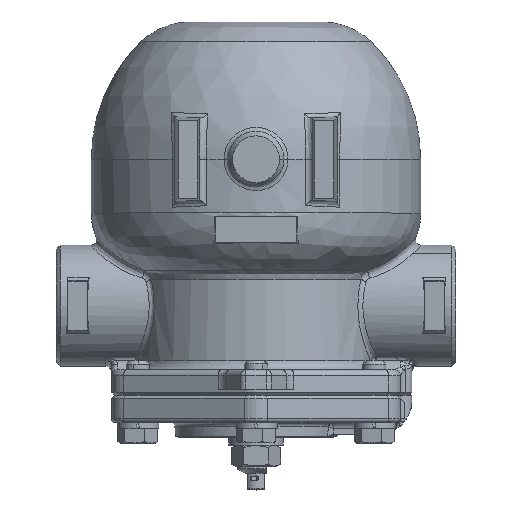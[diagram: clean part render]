
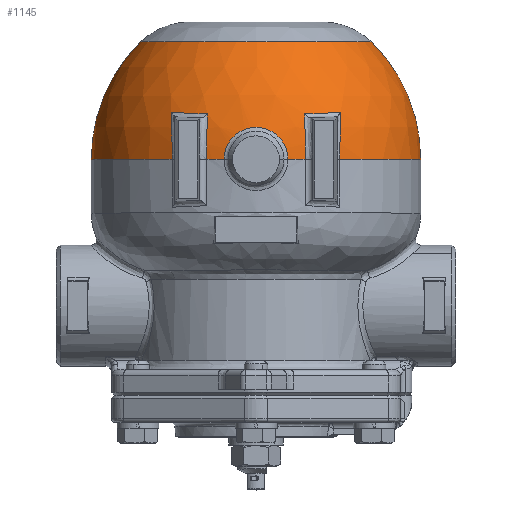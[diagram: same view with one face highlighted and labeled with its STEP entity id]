
A CAD part, top view. The second image highlights one B-rep face of the part: STEP entity #1145.
In plain terms, the highlighted spherical face has radius 84.5 mm.
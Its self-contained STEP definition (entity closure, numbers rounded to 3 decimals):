
#1145=ADVANCED_FACE('',(#7671),#7670,.T.);
#7670=SPHERICAL_SURFACE('',#24680,84.5);
#7671=FACE_OUTER_BOUND('',#24681,.T.);
#24677=CARTESIAN_POINT('',(75.,0.,0.));
#24678=DIRECTION('',(-1.,0.,0.));
#24679=DIRECTION('',(0.,0.009,-1.));
#24680=AXIS2_PLACEMENT_3D('',#24677,#24678,#24679);
#24681=EDGE_LOOP('',(#28707,#28708,#28709,#28710,#28711,#28712,#28713,#28714,#28715,#28716,#28717,#28718,#28719,#28720,#28721,#28722));
#28707=ORIENTED_EDGE('',*,*,#30741,.T.);
#28708=ORIENTED_EDGE('',*,*,#30745,.T.);
#28709=ORIENTED_EDGE('',*,*,#30789,.T.);
#28710=ORIENTED_EDGE('',*,*,#30787,.F.);
#28711=ORIENTED_EDGE('',*,*,#30149,.T.);
#28712=ORIENTED_EDGE('',*,*,#30581,.T.);
#28713=ORIENTED_EDGE('',*,*,#30294,.T.);
#28714=ORIENTED_EDGE('',*,*,#30786,.F.);
#28715=ORIENTED_EDGE('',*,*,#30575,.T.);
#28716=ORIENTED_EDGE('',*,*,#30785,.F.);
#28717=ORIENTED_EDGE('',*,*,#30303,.T.);
#28718=ORIENTED_EDGE('',*,*,#30592,.T.);
#28719=ORIENTED_EDGE('',*,*,#30297,.T.);
#28720=ORIENTED_EDGE('',*,*,#30784,.F.);
#28721=ORIENTED_EDGE('',*,*,#30777,.F.);
#28722=ORIENTED_EDGE('',*,*,#30790,.F.);
#30149=EDGE_CURVE('',#39950,#39977,#39985,.T.);
#30294=EDGE_CURVE('',#40962,#40955,#40963,.T.);
#30297=EDGE_CURVE('',#40983,#40976,#40984,.T.);
#30303=EDGE_CURVE('',#41025,#41018,#41026,.T.);
#30575=EDGE_CURVE('',#42772,#42779,#42799,.T.);
#30581=EDGE_CURVE('',#39977,#40962,#42837,.T.);
#30592=EDGE_CURVE('',#41018,#40983,#42907,.T.);
#30741=EDGE_CURVE('',#43862,#43855,#43863,.T.);
#30745=EDGE_CURVE('',#43855,#43882,#43889,.T.);
#30777=EDGE_CURVE('',#44085,#44092,#44093,.T.);
#30784=EDGE_CURVE('',#44092,#40976,#44139,.T.);
#30785=EDGE_CURVE('',#41025,#42779,#44145,.T.);
#30786=EDGE_CURVE('',#42772,#40955,#44151,.T.);
#30787=EDGE_CURVE('',#39950,#44157,#44158,.T.);
#30789=EDGE_CURVE('',#43882,#44157,#44170,.T.);
#30790=EDGE_CURVE('',#43862,#44085,#44176,.T.);
#39950=VERTEX_POINT('',#52533);
#39977=VERTEX_POINT('',#52558);
#39985=CIRCLE('',#52575,68.695);
#40955=VERTEX_POINT('',#53541);
#40962=VERTEX_POINT('',#53546);
#40963=CIRCLE('',#53550,82.531);
#40976=VERTEX_POINT('',#53566);
#40983=VERTEX_POINT('',#53571);
#40984=CIRCLE('',#53575,68.695);
#41018=VERTEX_POINT('',#53608);
#41025=VERTEX_POINT('',#53623);
#41026=CIRCLE('',#53627,82.531);
#42772=VERTEX_POINT('',#55547);
#42779=VERTEX_POINT('',#55552);
#42799=CIRCLE('',#55661,16.422);
#42837=CIRCLE('',#55685,79.008);
#42907=CIRCLE('',#55724,79.008);
#43855=VERTEX_POINT('',#56577);
#43862=VERTEX_POINT('',#56581);
#43863=CIRCLE('',#56585,59.138);
#43882=VERTEX_POINT('',#56594);
#43889=CIRCLE('',#56602,59.138);
#44085=VERTEX_POINT('',#56705);
#44092=VERTEX_POINT('',#56710);
#44093=CIRCLE('',#56714,84.5);
#44139=CIRCLE('',#56742,84.5);
#44145=CIRCLE('',#56746,84.5);
#44151=CIRCLE('',#56750,84.5);
#44157=VERTEX_POINT('',#56751);
#44158=CIRCLE('',#56755,84.5);
#44170=(BOUNDED_CURVE() B_SPLINE_CURVE(2,(#56760,#56761,#56762),.UNSPECIFIED.,.F.,.F.) B_SPLINE_CURVE_WITH_KNOTS((3,3),(0.,1.),.UNSPECIFIED.) CURVE() GEOMETRIC_REPRESENTATION_ITEM() RATIONAL_B_SPLINE_CURVE((1.,0.922,1.)) REPRESENTATION_ITEM('') );
#44176=(BOUNDED_CURVE() B_SPLINE_CURVE(2,(#56763,#56764,#56765),.UNSPECIFIED.,.F.,.F.) B_SPLINE_CURVE_WITH_KNOTS((3,3),(0.,1.),.UNSPECIFIED.) CURVE() GEOMETRIC_REPRESENTATION_ITEM() RATIONAL_B_SPLINE_CURVE((0.75,0.691,0.75)) REPRESENTATION_ITEM('') );
#52533=CARTESIAN_POINT('',(75.,-72.722,43.032));
#52558=CARTESIAN_POINT('',(99.098,-68.373,43.412));
#52572=CARTESIAN_POINT('',(75.,-4.289,49.019));
#52573=DIRECTION('',(0.,-0.087,0.996));
#52574=DIRECTION('',(0.,0.996,0.087));
#52575=AXIS2_PLACEMENT_3D('',#52572,#52573,#52574);
#53541=CARTESIAN_POINT('',(75.,-80.636,25.26));
#53546=CARTESIAN_POINT('',(98.318,-77.286,24.967));
#53547=CARTESIAN_POINT('',(75.,1.581,18.067));
#53548=DIRECTION('',(0.,-0.087,-0.996));
#53549=DIRECTION('',(-0.283,0.956,-0.084));
#53550=AXIS2_PLACEMENT_3D('',#53547,#53548,#53549);
#53566=CARTESIAN_POINT('',(75.,-72.722,-43.032));
#53571=CARTESIAN_POINT('',(99.098,-68.373,-43.412));
#53572=CARTESIAN_POINT('',(75.,-4.289,-49.019));
#53573=DIRECTION('',(0.,-0.087,-0.996));
#53574=DIRECTION('',(-0.351,0.933,-0.082));
#53575=AXIS2_PLACEMENT_3D('',#53572,#53573,#53574);
#53608=CARTESIAN_POINT('',(98.318,-77.286,-24.967));
#53623=CARTESIAN_POINT('',(75.,-80.636,-25.26));
#53624=CARTESIAN_POINT('',(75.,1.581,-18.067));
#53625=DIRECTION('',(0.,-0.087,0.996));
#53626=DIRECTION('',(0.,0.996,0.087));
#53627=AXIS2_PLACEMENT_3D('',#53624,#53625,#53626);
#55547=CARTESIAN_POINT('',(75.,-82.889,16.422));
#55552=CARTESIAN_POINT('',(75.,-82.889,-16.422));
#55658=CARTESIAN_POINT('',(75.,-82.889,0.));
#55659=DIRECTION('',(0.,1.,0.));
#55660=DIRECTION('',(0.,0.,-1.));
#55661=AXIS2_PLACEMENT_3D('',#55658,#55659,#55660);
#55682=CARTESIAN_POINT('',(104.851,-2.612,0.));
#55683=DIRECTION('',(0.996,-0.087,0.));
#55684=DIRECTION('',(0.073,0.832,-0.549));
#55685=AXIS2_PLACEMENT_3D('',#55682,#55683,#55684);
#55721=CARTESIAN_POINT('',(104.851,-2.612,0.));
#55722=DIRECTION('',(0.996,-0.087,0.));
#55723=DIRECTION('',(0.083,0.945,0.316));
#55724=AXIS2_PLACEMENT_3D('',#55721,#55722,#55723);
#56577=CARTESIAN_POINT('',(135.357,0.,-59.138));
#56581=CARTESIAN_POINT('',(135.357,0.516,-59.135));
#56582=CARTESIAN_POINT('',(135.357,0.,0.));
#56583=DIRECTION('',(-1.,0.,0.));
#56584=DIRECTION('',(0.,0.,-1.));
#56585=AXIS2_PLACEMENT_3D('',#56582,#56583,#56584);
#56594=CARTESIAN_POINT('',(135.357,-0.516,59.135));
#56599=CARTESIAN_POINT('',(135.357,0.,0.));
#56600=DIRECTION('',(-1.,0.,0.));
#56601=DIRECTION('',(0.,0.,-1.));
#56602=AXIS2_PLACEMENT_3D('',#56599,#56600,#56601);
#56705=CARTESIAN_POINT('',(75.,0.737,-84.497));
#56710=CARTESIAN_POINT('',(75.,0.,-84.5));
#56711=CARTESIAN_POINT('',(75.,0.,0.));
#56712=DIRECTION('',(-1.,0.,0.));
#56713=DIRECTION('',(0.,-0.861,0.509));
#56714=AXIS2_PLACEMENT_3D('',#56711,#56712,#56713);
#56739=CARTESIAN_POINT('',(75.,0.,0.));
#56740=DIRECTION('',(-1.,0.,0.));
#56741=DIRECTION('',(0.,-0.861,0.509));
#56742=AXIS2_PLACEMENT_3D('',#56739,#56740,#56741);
#56743=CARTESIAN_POINT('',(75.,0.,0.));
#56744=DIRECTION('',(-1.,0.,0.));
#56745=DIRECTION('',(0.,0.954,0.299));
#56746=AXIS2_PLACEMENT_3D('',#56743,#56744,#56745);
#56747=CARTESIAN_POINT('',(75.,0.,0.));
#56748=DIRECTION('',(-1.,0.,0.));
#56749=DIRECTION('',(0.,0.981,-0.194));
#56750=AXIS2_PLACEMENT_3D('',#56747,#56748,#56749);
#56751=CARTESIAN_POINT('',(75.,-0.737,84.497));
#56752=CARTESIAN_POINT('',(75.,0.,0.));
#56753=DIRECTION('',(-1.,0.,0.));
#56754=DIRECTION('',(0.,0.,-1.));
#56755=AXIS2_PLACEMENT_3D('',#56752,#56753,#56754);
#56760=CARTESIAN_POINT('',(135.357,-0.516,59.135));
#56761=CARTESIAN_POINT('',(110.507,-0.737,84.497));
#56762=CARTESIAN_POINT('',(75.,-0.737,84.497));
#56763=CARTESIAN_POINT('',(135.357,0.516,-59.135));
#56764=CARTESIAN_POINT('',(110.507,0.737,-84.497));
#56765=CARTESIAN_POINT('',(75.,0.737,-84.497));
